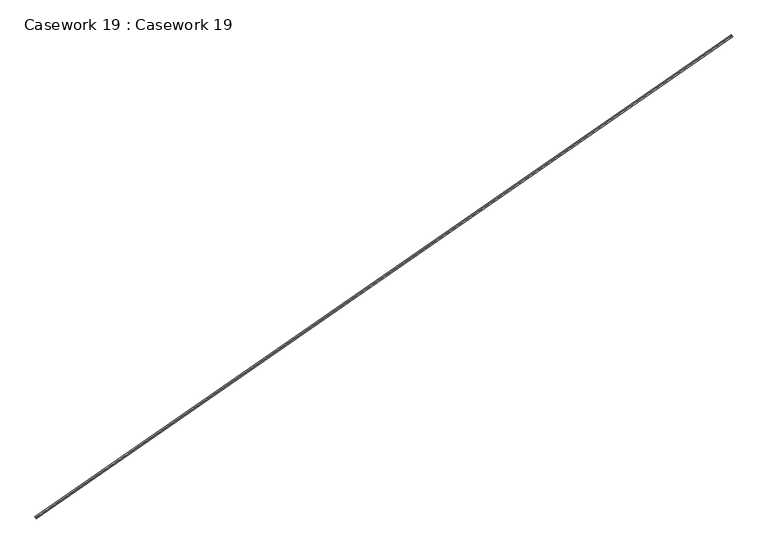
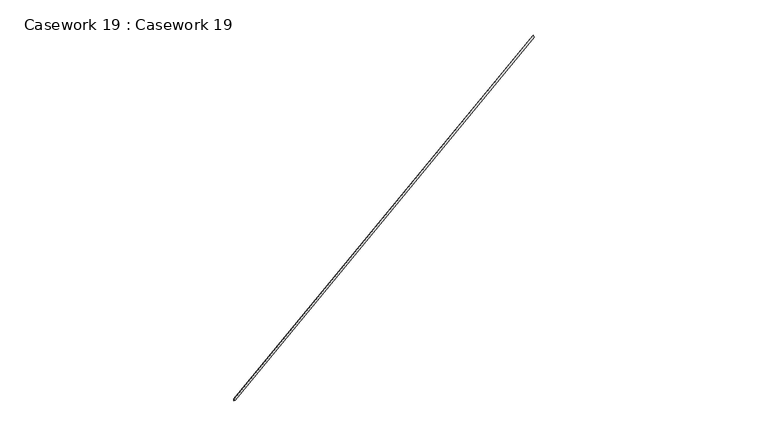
"""IFC4 building model written with IfcOpenShell, lengths in millimetres: furniture geometry, Casework 19 : Casework 19."""

from ifc_helpers import new_model, si_unit, frame, origin, place, context, project, spatial, polyline, outline, extrude, source, transform, mapped, element, save


def casework_19_casework_19_e0a37d92(model_context):
    return source(origin(), model_context, "Body", "SweptSolid", [
        extrude(outline(polyline([(0.0, 0.0), (-23.5313665, 35.8719083), (18.7383023, 35.8719083), (18.7383023, 0.0), (0.0, 0.0)])), frame((-8948.761197, 4349.2082838, 4815.780473), z_axis=(0.8223839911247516, 0.5689306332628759, 0.0015829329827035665), x_axis=(0.47499806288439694, -0.6881314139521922, 0.5484997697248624)), (0.0, 0.0, 1.0), 12480.0),
    ])


if __name__ == "__main__":
    model = new_model("IFC4")
    model_context = context("Model", 3, world=origin())
    ifc_project = project(units=[si_unit("LENGTHUNIT", "METRE", prefix="MILLI")], contexts=[model_context])
    site = spatial("IfcSite", under=ifc_project)
    building = spatial("IfcBuilding", under=site)
    placement = place(None, origin())
    casework_19_casework_19_shape = casework_19_casework_19_e0a37d92(model_context)
    element("IfcFurniture", 1, ObjectType="Casework 19 : Casework 19", at=placement, inside=building, context=model_context, shape_type="MappedRepresentation", body=[
        mapped(casework_19_casework_19_shape, transform((0.0, 0.0, 0.0), x_axis=(1.0, 0.0, 0.0), y_axis=(0.0, 1.0, 0.0), z_axis=(0.0, 0.0, 1.0))),
    ])
    save(model, "model.ifc")
